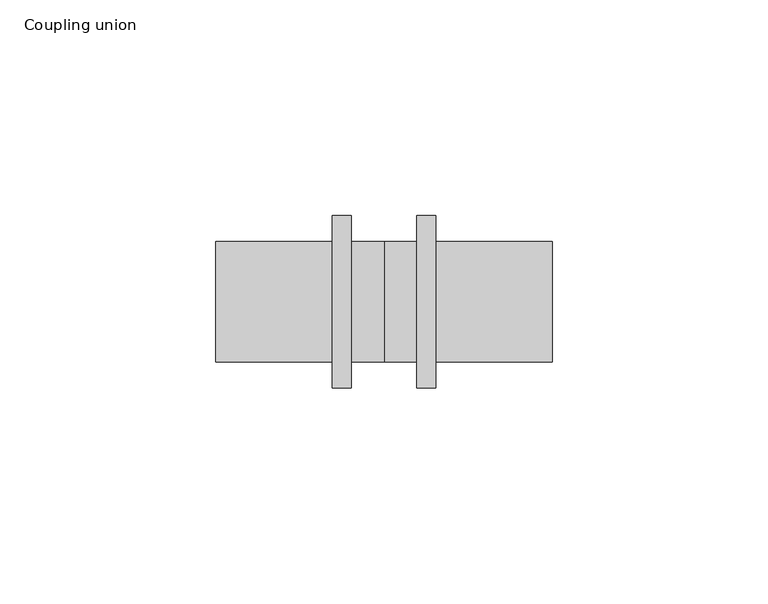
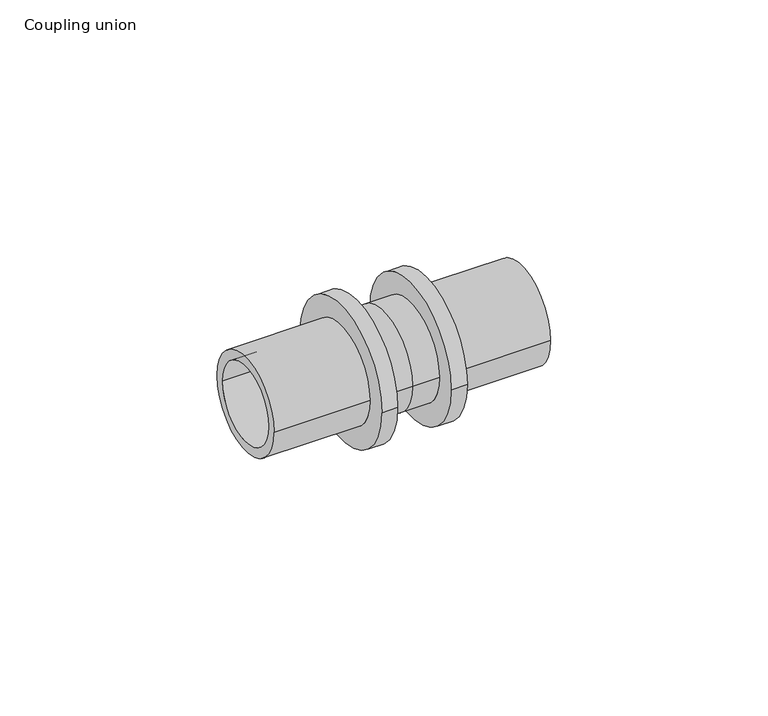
"""IFC4 building model written with IfcOpenShell, lengths in millimetres: pipe fitting geometry, Coupling union : C EQ SDR11 LX."""

from ifc_helpers import new_model, si_unit, frame, origin, place, context, project, spatial, polyline, circle_curve, source, transform, mapped, element, save
from ifc_brep_helpers import plane_surface, cylinder_surface, revolved_surface, advanced_brep


def coupling_union_f24334cc(model_context):
    return source(origin(), model_context, "Body", "AdvancedBrep", [
        advanced_brep(
        [(12.0, 20.0, 0.0), (12.0, -20.0, 0.0), (7.6, -20.0, 0.0), (7.6, 20.0, 0.0), (39.0, 14.0, 0.0), (39.0, -14.0, 0.0), (12.0, -14.0, 0.0), (12.0, 14.0, 0.0), (-39.0, 11.2, 0.0), (-39.0, -11.2, 0.0), (39.0, -11.2, 0.0), (39.0, 11.2, 0.0), (-12.0, 14.0, 0.0), (-12.0, -14.0, 0.0), (-39.0, -14.0, 0.0), (-39.0, 14.0, 0.0), (-7.6, 20.0, 0.0), (-7.6, -20.0, 0.0), (-12.0, -20.0, 0.0), (-12.0, 20.0, 0.0), (0.0, 14.0, 0.0), (0.0, -14.0, 0.0), (-7.6, -14.0, 0.0), (-7.6, 14.0, 0.0), (7.6, 14.0, 0.0), (7.6, -14.0, 0.0)],
        [
            (0, 1, circle_curve(frame((12.0, 0.0, 0.0), z_axis=(-1.0, 0.0, 0.0), x_axis=(0.0, -1.0, 0.0)), 20.0)),
            (1, 2),
            (2, 3, circle_curve(frame((7.6, 0.0, 0.0), z_axis=(1.0, 0.0, 0.0), x_axis=(0.0, -1.0, 0.0)), 20.0)),
            (3, 0),
            (4, 5, circle_curve(frame((39.0, 0.0, 0.0), z_axis=(-1.0, 0.0, 0.0), x_axis=(0.0, -1.0, 0.0)), 14.0)),
            (5, 6),
            (6, 7, circle_curve(frame((12.0, 0.0, 0.0), z_axis=(1.0, 0.0, 0.0), x_axis=(0.0, -1.0, 0.0)), 14.0)),
            (7, 4),
            (8, 9, circle_curve(frame((-39.0, 0.0, 0.0), z_axis=(-1.0, 0.0, 0.0), x_axis=(0.0, -1.0, 0.0)), 11.2)),
            (9, 10),
            (10, 11, circle_curve(frame((39.0, 0.0, 0.0), z_axis=(1.0, 0.0, 0.0), x_axis=(0.0, -1.0, 0.0)), 11.2)),
            (11, 8),
            (12, 13, circle_curve(frame((-12.0, 0.0, 0.0), z_axis=(-1.0, 0.0, 0.0), x_axis=(0.0, -1.0, 0.0)), 14.0)),
            (13, 14),
            (14, 15, circle_curve(frame((-39.0, 0.0, 0.0), z_axis=(1.0, 0.0, 0.0), x_axis=(0.0, -1.0, 0.0)), 14.0)),
            (15, 12),
            (16, 17, circle_curve(frame((-7.6, 0.0, 0.0), z_axis=(-1.0, 0.0, 0.0), x_axis=(0.0, -1.0, 0.0)), 20.0)),
            (17, 18),
            (18, 19, circle_curve(frame((-12.0, 0.0, 0.0), z_axis=(1.0, 0.0, 0.0), x_axis=(0.0, -1.0, 0.0)), 20.0)),
            (19, 16),
            (20, 21, circle_curve(frame((0.0, 0.0, 0.0), z_axis=(-1.0, 0.0, 0.0), x_axis=(0.0, -1.0, 0.0)), 14.0)),
            (21, 22),
            (22, 23, circle_curve(frame((-7.6, 0.0, 0.0), z_axis=(1.0, 0.0, 0.0), x_axis=(0.0, -1.0, 0.0)), 14.0)),
            (23, 20),
            (24, 25, circle_curve(frame((7.6, 0.0, 0.0), z_axis=(-1.0, 0.0, 0.0), x_axis=(0.0, -1.0, 0.0)), 14.0)),
            (25, 21),
            (20, 24),
            (1, 0, circle_curve(frame((12.0, 0.0, 0.0), z_axis=(-1.0, 0.0, 0.0), x_axis=(0.0, 1.0, 0.0)), 20.0)),
            (3, 2, circle_curve(frame((7.6, 0.0, 0.0), z_axis=(1.0, 0.0, 0.0), x_axis=(0.0, 1.0, 0.0)), 20.0)),
            (6, 7, circle_curve(frame((12.0, 0.0, 0.0), z_axis=(-1.0, 0.0, 0.0), x_axis=(0.0, 1.0, 0.0)), 14.0)),
            (5, 4, circle_curve(frame((39.0, 0.0, 0.0), z_axis=(-1.0, 0.0, 0.0), x_axis=(0.0, 1.0, 0.0)), 14.0)),
            (10, 11, circle_curve(frame((39.0, 0.0, 0.0), z_axis=(-1.0, 0.0, 0.0), x_axis=(0.0, 1.0, 0.0)), 11.2)),
            (9, 8, circle_curve(frame((-39.0, 0.0, 0.0), z_axis=(-1.0, 0.0, 0.0), x_axis=(0.0, 1.0, 0.0)), 11.2)),
            (14, 15, circle_curve(frame((-39.0, 0.0, 0.0), z_axis=(-1.0, 0.0, 0.0), x_axis=(0.0, 1.0, 0.0)), 14.0)),
            (13, 12, circle_curve(frame((-12.0, 0.0, 0.0), z_axis=(-1.0, 0.0, 0.0), x_axis=(0.0, 1.0, 0.0)), 14.0)),
            (18, 19, circle_curve(frame((-12.0, 0.0, 0.0), z_axis=(-1.0, 0.0, 0.0), x_axis=(0.0, 1.0, 0.0)), 20.0)),
            (17, 16, circle_curve(frame((-7.6, 0.0, 0.0), z_axis=(-1.0, 0.0, 0.0), x_axis=(0.0, 1.0, 0.0)), 20.0)),
            (22, 23, circle_curve(frame((-7.6, 0.0, 0.0), z_axis=(-1.0, 0.0, 0.0), x_axis=(0.0, 1.0, 0.0)), 14.0)),
            (21, 20, circle_curve(frame((0.0, 0.0, 0.0), z_axis=(-1.0, 0.0, 0.0), x_axis=(0.0, 1.0, 0.0)), 14.0)),
            (25, 24, circle_curve(frame((7.6, 0.0, 0.0), z_axis=(-1.0, 0.0, 0.0), x_axis=(0.0, 1.0, 0.0)), 14.0)),
        ],
        [
            cylinder_surface(frame((0.0, 0.0, 0.0), z_axis=(1.0, 0.0, 0.0), x_axis=(0.0, -1.0, 0.0)), 20.0),
            cylinder_surface(frame((0.0, 0.0, 0.0), z_axis=(1.0, 0.0, 0.0), x_axis=(0.0, -1.0, 0.0)), 14.0),
            revolved_surface(polyline([(39.0, -11.2, 0.0), (-39.0, -11.2, 0.0)]), (0.0, 0.0, 0.0), (1.0, 0.0, 0.0)),
            cylinder_surface(frame((0.0, 0.0, 0.0), z_axis=(1.0, 0.0, 0.0), x_axis=(0.0, 1.0, 0.0)), 20.0),
            plane_surface(frame((12.0, 0.0, 0.0), z_axis=(1.0, 0.0, 0.0), x_axis=(0.0, 1.0, 0.0))),
            cylinder_surface(frame((0.0, 0.0, 0.0), z_axis=(1.0, 0.0, 0.0), x_axis=(0.0, 1.0, 0.0)), 14.0),
            plane_surface(frame((39.0, 0.0, 0.0), z_axis=(1.0, 0.0, 0.0), x_axis=(0.0, 1.0, 0.0))),
            revolved_surface(polyline([(39.0, 11.2, 0.0), (-39.0, 11.2, 0.0)]), (0.0, 0.0, 0.0), (1.0, 0.0, 0.0)),
            plane_surface(frame((-39.0, 0.0, 0.0), z_axis=(-1.0, 0.0, 0.0), x_axis=(0.0, 1.0, 0.0))),
            plane_surface(frame((-12.0, 0.0, 0.0), z_axis=(-1.0, 0.0, 0.0), x_axis=(0.0, 1.0, 0.0))),
            plane_surface(frame((-7.6, 0.0, 0.0), z_axis=(1.0, 0.0, 0.0), x_axis=(0.0, 1.0, 0.0))),
            plane_surface(frame((7.6, 0.0, 0.0), z_axis=(-1.0, 0.0, 0.0), x_axis=(0.0, 1.0, 0.0))),
        ],
        [
            (0, [[1, 2, 3, 4]]),
            (1, [[5, 6, 7, 8]]),
            (2, [[9, 10, 11, 12]]),
            (1, [[13, 14, 15, 16]]),
            (0, [[17, 18, 19, 20]]),
            (1, [[21, 22, 23, 24]]),
            (1, [[25, 26, -21, 27]]),
            (3, [[28, -4, 29, -2]]),
            (4, [[-28, -1], [30, -7]]),
            (5, [[31, -8, -30, -6]]),
            (6, [[-31, -5], [32, -11]]),
            (7, [[33, -12, -32, -10]]),
            (8, [[34, -15], [-33, -9]]),
            (5, [[35, -16, -34, -14]]),
            (9, [[36, -19], [-35, -13]]),
            (3, [[37, -20, -36, -18]]),
            (10, [[-37, -17], [38, -23]]),
            (5, [[39, -24, -38, -22]]),
            (5, [[40, -27, -39, -26]]),
            (11, [[-29, -3], [-40, -25]]),
        ],
    ),
    ])


if __name__ == "__main__":
    model = new_model("IFC4")
    model_context = context("Model", 3, world=origin())
    ifc_project = project(units=[si_unit("LENGTHUNIT", "METRE", prefix="MILLI")], contexts=[model_context])
    site = spatial("IfcSite", under=ifc_project)
    building = spatial("IfcBuilding", under=site)
    placement = place(None, origin())
    coupling_union_shape = coupling_union_f24334cc(model_context)
    element("IfcPipeFitting", 1, ObjectType="Coupling union : C EQ SDR11 LX", at=placement, inside=building, context=model_context, shape_type="MappedRepresentation", body=[
        mapped(coupling_union_shape, transform((0.0, 0.0, 0.0), x_axis=(1.0, 0.0, 0.0), y_axis=(0.0, 1.0, 0.0), z_axis=(0.0, 0.0, 1.0))),
    ])
    save(model, "model.ifc")
